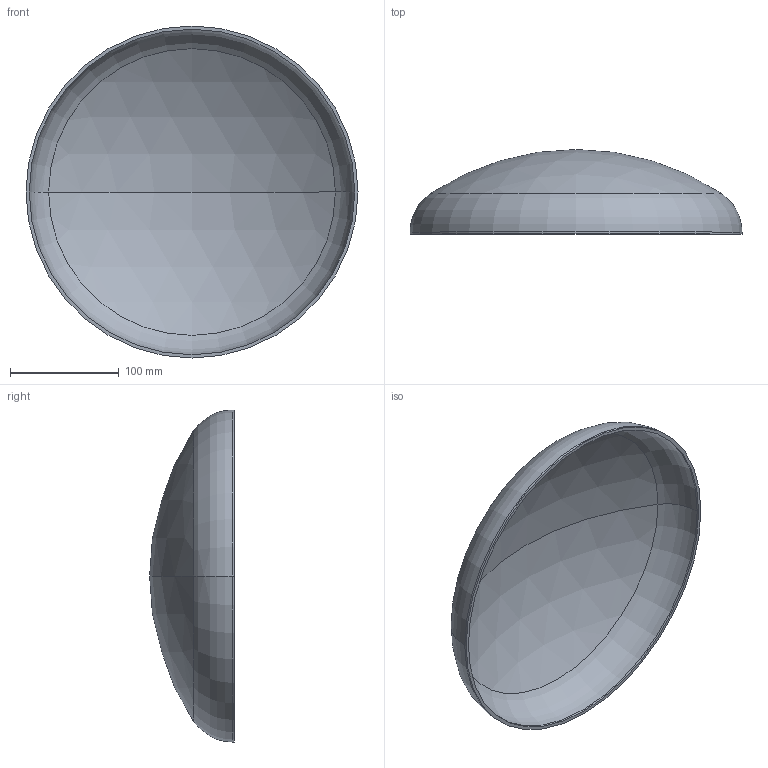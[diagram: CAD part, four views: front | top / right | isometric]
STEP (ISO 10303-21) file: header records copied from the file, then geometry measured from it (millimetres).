
FILE_DESCRIPTION (( 'STEP AP203' ), '1' );
FILE_NAME ('3D_R365_306x3_173371420.STEP', '2024-07-16T06:47:34', ( '' ), ( '' ), 'SwSTEP 2.0', 'SolidWorks 2024', '' );
FILE_SCHEMA (( 'CONFIG_CONTROL_DESIGN' ));
Length unit declared in the file: millimetre
Products named in the file (1): 3D_R365_306x3_173371420
Bounding box: 306 x 78 x 306 mm (x, y, z)
Volume: 298724.4 mm3; surface area: 202024.1 mm2
Topology: 1 solids, 1 shells, 13 faces, 24 edges, 14 vertices
Faces by surface type: sphere 4, torus 4, cylinder 4, plane 1
Entity records: 407 total; most frequent: DIRECTION 72, CARTESIAN_POINT 52, ORIENTED_EDGE 48, AXIS2_PLACEMENT_3D 34, EDGE_CURVE 24, CIRCLE 20, VERTEX_POINT 14, EDGE_LOOP 14
